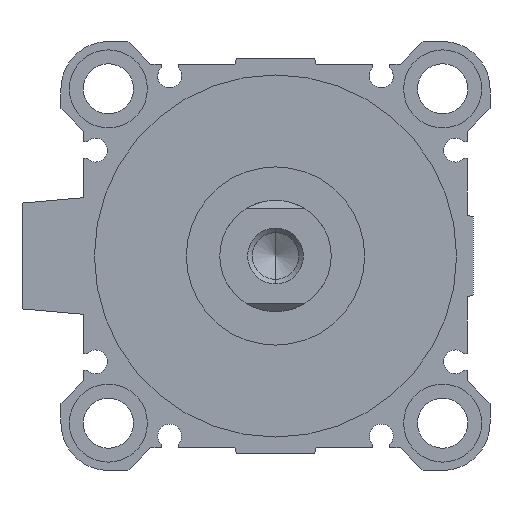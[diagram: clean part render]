
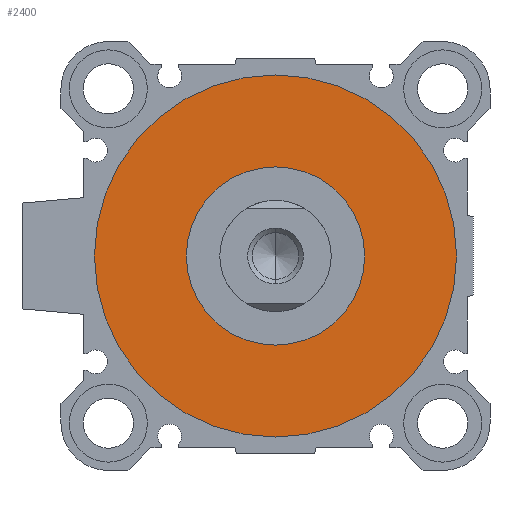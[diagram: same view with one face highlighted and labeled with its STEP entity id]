
A CAD part, left-side view. The second image highlights one B-rep face of the part: STEP entity #2400.
In plain terms, the highlighted planar face has unit normal (-1, 0, 0).
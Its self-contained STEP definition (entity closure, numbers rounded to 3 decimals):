
#12 = EDGE_CURVE ( 'NONE', #2362, #1154, #4194, .T. ) ;
#110 = DIRECTION ( 'NONE',  ( 0., 0., -1. ) ) ;
#131 = EDGE_LOOP ( 'NONE', ( #2795, #2005 ) ) ;
#259 = DIRECTION ( 'NONE',  ( 0., 0., -1. ) ) ;
#510 = CIRCLE ( 'NONE', #2268, 16. ) ;
#886 = CARTESIAN_POINT ( 'NONE',  ( 4., 0., -16. ) ) ;
#901 = CARTESIAN_POINT ( 'NONE',  ( 4., 0., -32.5 ) ) ;
#961 = AXIS2_PLACEMENT_3D ( 'NONE', #1942, #3163, #259 ) ;
#1018 = DIRECTION ( 'NONE',  ( 1., 0., 0. ) ) ;
#1154 = VERTEX_POINT ( 'NONE', #5216 ) ;
#1269 = CARTESIAN_POINT ( 'NONE',  ( 4., 0., 0. ) ) ;
#1539 = ORIENTED_EDGE ( 'NONE', *, *, #3368, .F. ) ;
#1604 = AXIS2_PLACEMENT_3D ( 'NONE', #1269, #2957, #2600 ) ;
#1713 = CARTESIAN_POINT ( 'NONE',  ( 4., 0., 0. ) ) ;
#1759 = CIRCLE ( 'NONE', #2903, 32.5 ) ;
#1942 = CARTESIAN_POINT ( 'NONE',  ( 4., 0., 0. ) ) ;
#2005 = ORIENTED_EDGE ( 'NONE', *, *, #12, .T. ) ;
#2169 = PLANE ( 'NONE',  #1604 ) ;
#2268 = AXIS2_PLACEMENT_3D ( 'NONE', #1713, #3859, #110 ) ;
#2362 = VERTEX_POINT ( 'NONE', #886 ) ;
#2400 = ADVANCED_FACE ( 'NONE', ( #4218, #4240 ), #2169, .F. ) ;
#2441 = ORIENTED_EDGE ( 'NONE', *, *, #3303, .F. ) ;
#2600 = DIRECTION ( 'NONE',  ( 0., 1., 0. ) ) ;
#2786 = VERTEX_POINT ( 'NONE', #901 ) ;
#2795 = ORIENTED_EDGE ( 'NONE', *, *, #4486, .T. ) ;
#2903 = AXIS2_PLACEMENT_3D ( 'NONE', #4275, #3498, #4742 ) ;
#2957 = DIRECTION ( 'NONE',  ( 1., 0., 0. ) ) ;
#3086 = VERTEX_POINT ( 'NONE', #4534 ) ;
#3163 = DIRECTION ( 'NONE',  ( 1., 0., 0. ) ) ;
#3292 = CIRCLE ( 'NONE', #4522, 32.5 ) ;
#3303 = EDGE_CURVE ( 'NONE', #2786, #3086, #1759, .T. ) ;
#3368 = EDGE_CURVE ( 'NONE', #3086, #2786, #3292, .T. ) ;
#3472 = CARTESIAN_POINT ( 'NONE',  ( 4., 0., 0. ) ) ;
#3498 = DIRECTION ( 'NONE',  ( 1., 0., 0. ) ) ;
#3859 = DIRECTION ( 'NONE',  ( 1., 0., 0. ) ) ;
#3934 = EDGE_LOOP ( 'NONE', ( #1539, #2441 ) ) ;
#4194 = CIRCLE ( 'NONE', #961, 16. ) ;
#4218 = FACE_OUTER_BOUND ( 'NONE', #3934, .T. ) ;
#4240 = FACE_BOUND ( 'NONE', #131, .T. ) ;
#4275 = CARTESIAN_POINT ( 'NONE',  ( 4., 0., 0. ) ) ;
#4486 = EDGE_CURVE ( 'NONE', #1154, #2362, #510, .T. ) ;
#4522 = AXIS2_PLACEMENT_3D ( 'NONE', #3472, #1018, #5149 ) ;
#4534 = CARTESIAN_POINT ( 'NONE',  ( 4., 0., 32.5 ) ) ;
#4742 = DIRECTION ( 'NONE',  ( 0., 0., -1. ) ) ;
#5149 = DIRECTION ( 'NONE',  ( 0., 0., -1. ) ) ;
#5216 = CARTESIAN_POINT ( 'NONE',  ( 4., 0., 16. ) ) ;
